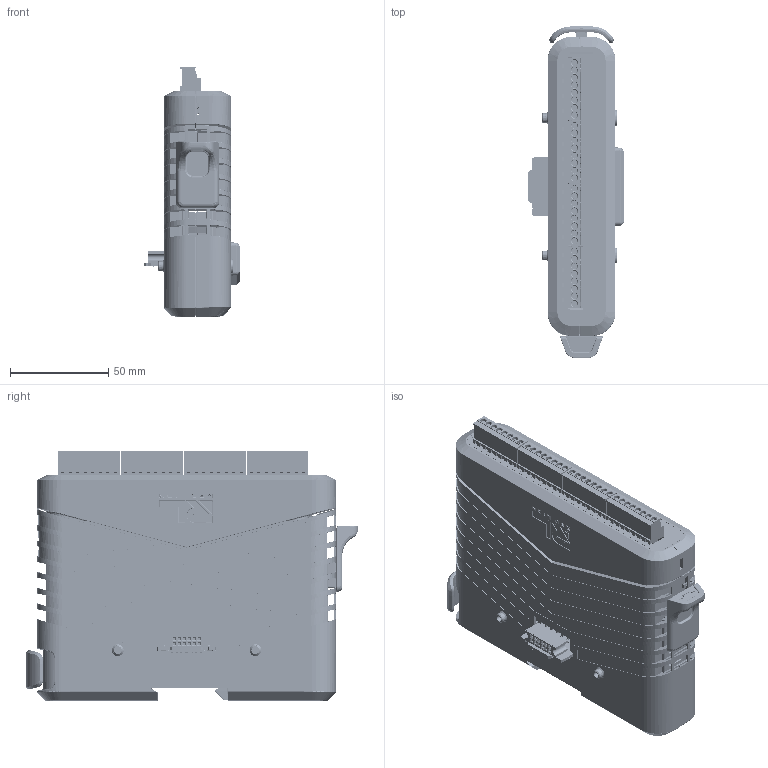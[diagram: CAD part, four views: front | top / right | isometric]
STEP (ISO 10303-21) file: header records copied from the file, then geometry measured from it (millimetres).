
FILE_DESCRIPTION (( 'STEP AP214' ), '1' );
FILE_NAME ('DAM_4conn.STEP', '2020-03-26T13:17:58', ( 'Network Administration' ), ( 'Red Lion Controls Inc.' ), 'SwSTEP 2.0', 'SolidWorks 2019', '' );
FILE_SCHEMA (( 'AUTOMOTIVE_DESIGN' ));
Length unit declared in the file: millimetre
Products named in the file (41): Master Part Module; 10667; 10647; 10669; cnep0121; 10643; 10676; CNEP0080_terminal; 10698; 10746; cradle_review- new extended downstream; 10840_94779A300; 10765; 10839; 10665; 10668; HWSTPP08; cnep0122; DAM_4conn; 10748; CNEP0080; 10838; 10747; backplane board assy1; 10654; Master Part Bus; 10644; 10666; backplane board same as original just one cut; 10727; 10670; CNEP0080_housing; threaded_insert_heat-set_4-40x.135_McMaster_93365A120_93365A120; 10745; pcb1; 10390; 10767; 10671; IO Module Bus Topdown1_10849-01
Assembly tree (54 placements, depth 5):
  Master Part Module
  DAM_4conn
    10665
    10666
    10669  x4
    HWSTPP08  x4
    10670
    10676
    10748
    10745
    10746
    10747
    10767
    10765
    IO Module Bus Topdown1_10849-01
      10667
      10668
      backplane board assy1
        backplane board same as original just one cut
        cnep0121
        cnep0122
        CNEP0080
          CNEP0080_housing
          CNEP0080_terminal  x8
        pcb1
        cradle_review- new extended downstream
      10671
      10839
      10644
      10647
      10643
        10643
        10727
      10698
        10698
        threaded_insert_heat-set_4-40x.135_McMaster_93365A120_93365A120  x2
      10838  x2
      10390
      10840_94779A300  x2
      10654
  Master Part Bus
Bounding box: 48.64 x 168.91 x 127.48 mm (x, y, z)
Volume: 41694.9 mm3; surface area: 278435.7 mm2
Topology: 106 solids, 563 shells, 20392 faces, 58475 edges, 38502 vertices
Faces by surface type: plane 9451, cylinder 5401, bspline 3934, cone 599, torus 514, sphere 493
Entity records: 677791 total; most frequent: CARTESIAN_POINT 213700, ORIENTED_EDGE 91470, DIRECTION 78717, EDGE_CURVE 49868, VERTEX_POINT 33536, VECTOR 30887, LINE 30887, AXIS2_PLACEMENT_3D 23915
